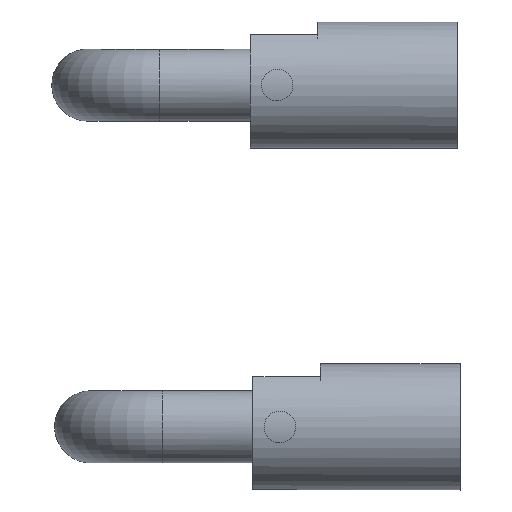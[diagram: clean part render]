
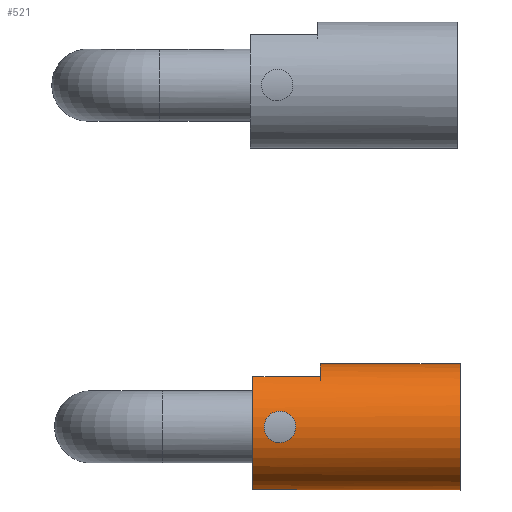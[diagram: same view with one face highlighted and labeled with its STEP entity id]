
A CAD part, left-side view. The second image highlights one B-rep face of the part: STEP entity #521.
In plain terms, the highlighted cylindrical face has radius 7 mm (diameter 14 mm), a full revolution.
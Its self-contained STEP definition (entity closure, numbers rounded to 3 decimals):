
#37=LINE('',#1123,#45);
#41=LINE('',#1133,#49);
#45=VECTOR('',#685,7.5);
#49=VECTOR('',#695,7.5);
#103=CIRCLE('',#572,7.);
#106=CIRCLE('',#579,7.);
#107=CIRCLE('',#580,7.);
#130=FACE_BOUND('',#200,.T.);
#157=FACE_OUTER_BOUND('',#199,.T.);
#199=EDGE_LOOP('',(#425,#426,#427,#428));
#200=EDGE_LOOP('',(#429));
#264=VERTEX_POINT('',#1113);
#265=VERTEX_POINT('',#1114);
#268=VERTEX_POINT('',#1122);
#271=VERTEX_POINT('',#1132);
#272=VERTEX_POINT('',#1137);
#319=EDGE_CURVE('',#264,#265,#103,.T.);
#323=EDGE_CURVE('',#265,#268,#37,.T.);
#328=EDGE_CURVE('',#271,#264,#41,.T.);
#330=EDGE_CURVE('',#271,#268,#106,.T.);
#331=EDGE_CURVE('',#272,#272,#107,.T.);
#425=ORIENTED_EDGE('',*,*,#328,.T.);
#426=ORIENTED_EDGE('',*,*,#319,.T.);
#427=ORIENTED_EDGE('',*,*,#323,.T.);
#428=ORIENTED_EDGE('',*,*,#330,.F.);
#429=ORIENTED_EDGE('',*,*,#331,.T.);
#495=CYLINDRICAL_SURFACE('',#578,7.);
#521=ADVANCED_FACE('',(#157,#130),#495,.T.);
#572=AXIS2_PLACEMENT_3D('',#1115,#677,#678);
#578=AXIS2_PLACEMENT_3D('',#1135,#697,#698);
#579=AXIS2_PLACEMENT_3D('',#1136,#699,#700);
#580=AXIS2_PLACEMENT_3D('',#1138,#701,#702);
#677=DIRECTION('center_axis',(0.,-1.,0.));
#678=DIRECTION('ref_axis',(-1.,0.,0.));
#685=DIRECTION('',(0.,1.,0.));
#695=DIRECTION('',(0.,-1.,0.));
#697=DIRECTION('center_axis',(0.,1.,0.));
#698=DIRECTION('ref_axis',(-1.,0.,0.));
#699=DIRECTION('center_axis',(0.,1.,0.));
#700=DIRECTION('ref_axis',(1.,0.,0.));
#701=DIRECTION('center_axis',(0.,1.,0.));
#702=DIRECTION('ref_axis',(1.,0.,0.));
#1113=CARTESIAN_POINT('',(4.25,-7.5,5.562));
#1114=CARTESIAN_POINT('',(-4.25,-7.5,5.562));
#1115=CARTESIAN_POINT('Origin',(0.,-7.5,0.));
#1122=CARTESIAN_POINT('',(-4.25,0.,5.562));
#1123=CARTESIAN_POINT('',(-4.25,-11.5,5.562));
#1132=CARTESIAN_POINT('',(4.25,0.,5.562));
#1133=CARTESIAN_POINT('',(4.25,-11.5,5.562));
#1135=CARTESIAN_POINT('Origin',(0.,-11.5,0.));
#1136=CARTESIAN_POINT('Origin',(0.,0.,
0.));
#1137=CARTESIAN_POINT('',(-7.,-23.,0.));
#1138=CARTESIAN_POINT('Origin',(0.,-23.,0.));
